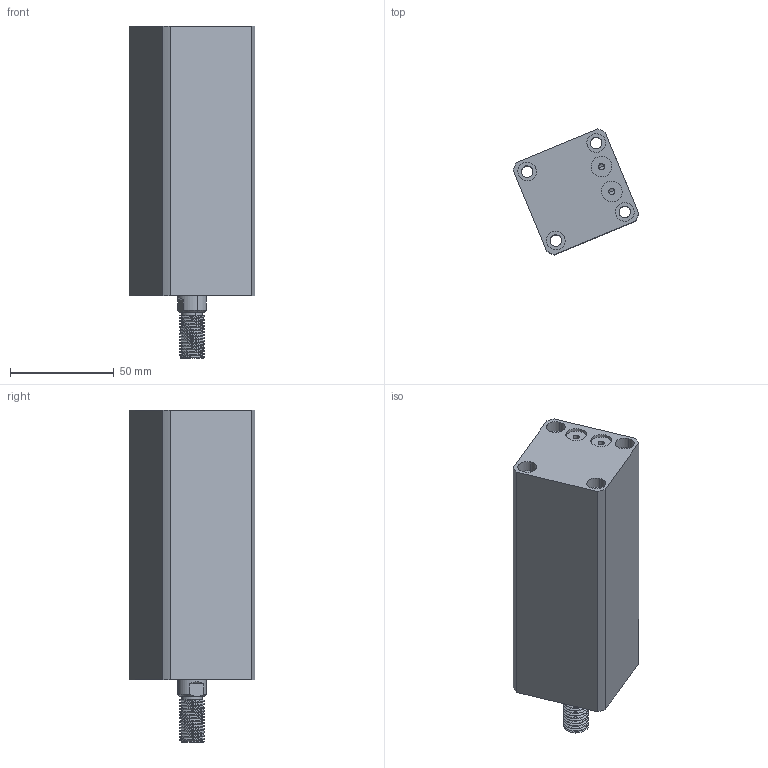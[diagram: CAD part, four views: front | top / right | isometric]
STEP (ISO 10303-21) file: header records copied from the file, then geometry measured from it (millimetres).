
FILE_DESCRIPTION (( 'STEP AP214' ), '1' );
FILE_NAME ('chtb-sdmb25x85w_asm.STEP', '2018-05-24T02:42:11', ( 'Windows' ), ( 'Microsoft' ), 'SwSTEP 2.0', 'SolidWorks 2015', '' );
FILE_SCHEMA (( 'AUTOMOTIVE_DESIGN' ));
Length unit declared in the file: millimetre
Products named in the file (4): CHTB-SDMB25X85WHSG; CHTB-SDMB25X85NBT; CHTB-25QG; chtb-sdmb25x85w_asm
Assembly tree (3 placements, depth 2):
  chtb-sdmb25x85w_asm
    CHTB-25QG
    CHTB-SDMB25X85NBT
    CHTB-SDMB25X85WHSG
Bounding box: 60.55 x 60.55 x 160 mm (x, y, z)
Volume: 255500.5 mm3; surface area: 63355.8 mm2
Topology: 3 solids, 3 shells, 176 faces, 476 edges, 323 vertices
Faces by surface type: cylinder 118, plane 37, bspline 12, cone 9
Entity records: 10721 total; most frequent: CARTESIAN_POINT 6406, ORIENTED_EDGE 944, DIRECTION 765, EDGE_CURVE 472, VERTEX_POINT 323, AXIS2_PLACEMENT_3D 310, EDGE_LOOP 215, ADVANCED_FACE 176
